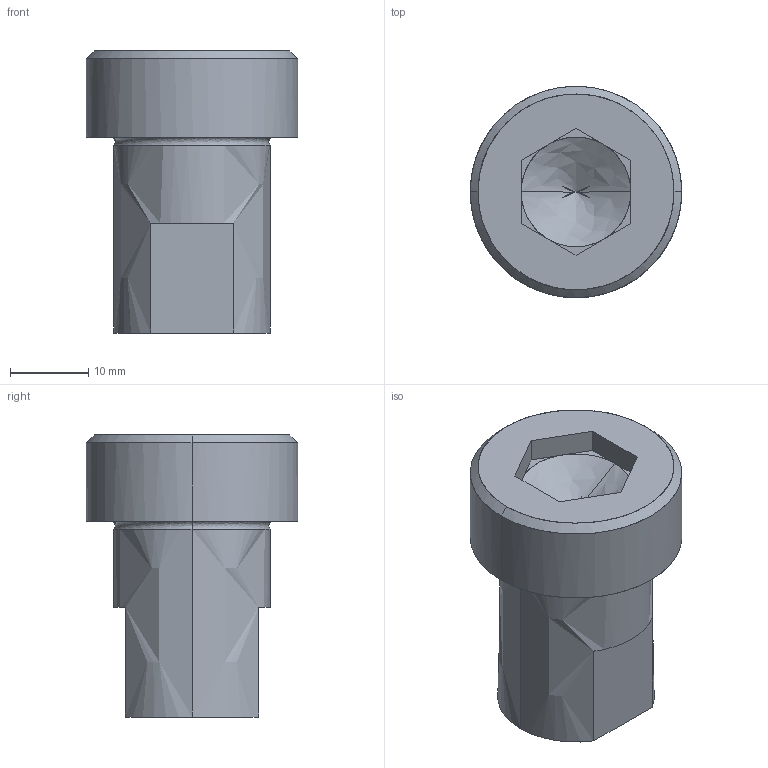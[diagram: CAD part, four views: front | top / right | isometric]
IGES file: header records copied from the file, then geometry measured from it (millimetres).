
Global section: file name: E:\UnigraphicsGraphicData\MISUMI_PRESS-PARTS\IGES\3d_sbtn20-25_00145_r00.igs; native system: NX V5.0; preprocessor: UGS NX IGES V5.0; author: MISUMI; date: 20110105.162506; units: millimetre
Bounding box: 27 x 27 x 36 mm (x, y, z)
Surface area: 4442.3 mm2 (no closed solid volume)
Topology: 0 solids, 0 shells, 38 faces, 220 edges, 216 vertices
Faces by surface type: bspline 38
